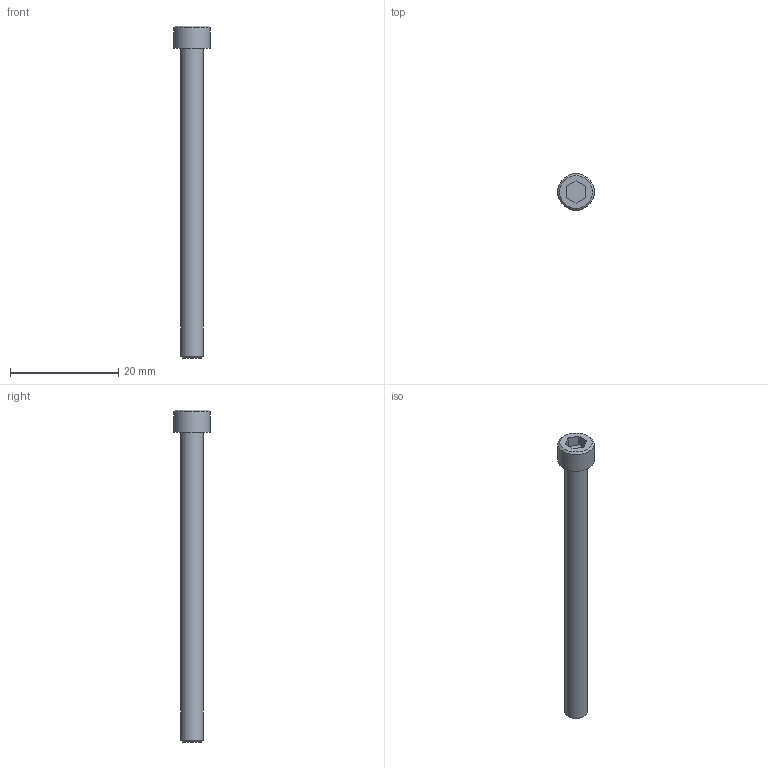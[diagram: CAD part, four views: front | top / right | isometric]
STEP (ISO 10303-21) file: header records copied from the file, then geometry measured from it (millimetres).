
FILE_DESCRIPTION((''),'2;1');
FILE_NAME('C:\Users\Stan\Desktop\import\SHCS 8-32 UNCx2.25.ipt.step','2011-08-18T17:45:38',(''),(''),'Autodesk Inventor 2012','Autodesk Inventor 2012','');
FILE_SCHEMA(('AUTOMOTIVE_DESIGN { 1 0 10303 214 1 1 1 1 }'));
Length unit declared in the file: inch
Products named in the file (1): SHCS 8-32 UNCx2.25
Bounding box: 6.76 x 6.76 x 61.26 mm (x, y, z)
Volume: 902.6 mm3; surface area: 923.7 mm2
Topology: 1 solids, 1 shells, 14 faces, 28 edges, 18 vertices
Faces by surface type: plane 10, cone 2, cylinder 2
Full cylindrical faces by diameter (mm): 4.166 x1, 6.756 x1
Entity records: 391 total; most frequent: DIRECTION 60, CARTESIAN_POINT 57, ORIENTED_EDGE 48, EDGE_CURVE 24, AXIS2_PLACEMENT_3D 21, EDGE_LOOP 20, VERTEX_POINT 18, VECTOR 18
